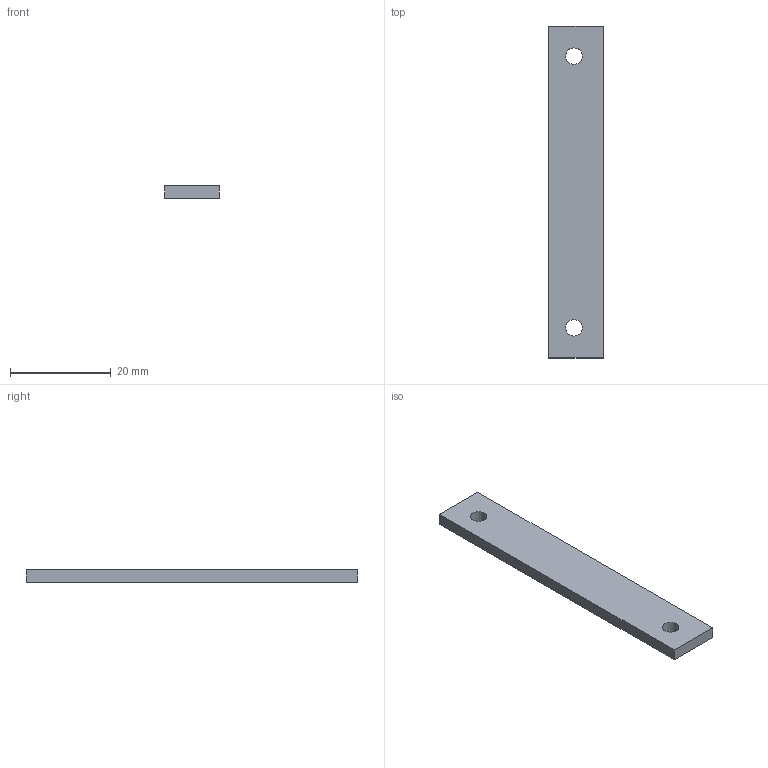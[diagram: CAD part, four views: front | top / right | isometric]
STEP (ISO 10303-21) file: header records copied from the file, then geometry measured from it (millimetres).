
FILE_DESCRIPTION(('Open CASCADE Model'),'2;1');
FILE_NAME('Open CASCADE Shape Model','2026-10-06T15:21:37',('Author'),( 'Open CASCADE'),'Open CASCADE STEP processor 7.9','Open CASCADE 7.9' ,'Unknown');
FILE_SCHEMA(('AUTOMOTIVE_DESIGN { 1 0 10303 214 1 1 1 1 }'));
Length unit declared in the file: millimetre
Products named in the file (1): Open CASCADE STEP translator 7.9 2
Bounding box: 10.8 x 66 x 2.4 mm (x, y, z)
Volume: 1669.7 mm3; surface area: 1809.8 mm2
Topology: 1 solids, 1 shells, 8 faces, 18 edges, 12 vertices
Faces by surface type: plane 6, cylinder 2
Full cylindrical faces by diameter (mm): 3.3 x2
Entity records: 478 total; most frequent: DIRECTION 76, CARTESIAN_POINT 75, LINE 46, VECTOR 46, ORIENTED_EDGE 36, PCURVE 36, DEFINITIONAL_REPRESENTATION 36, EDGE_CURVE 18
